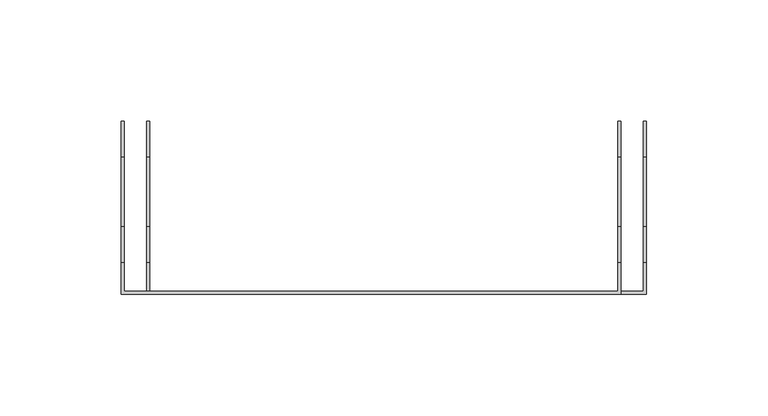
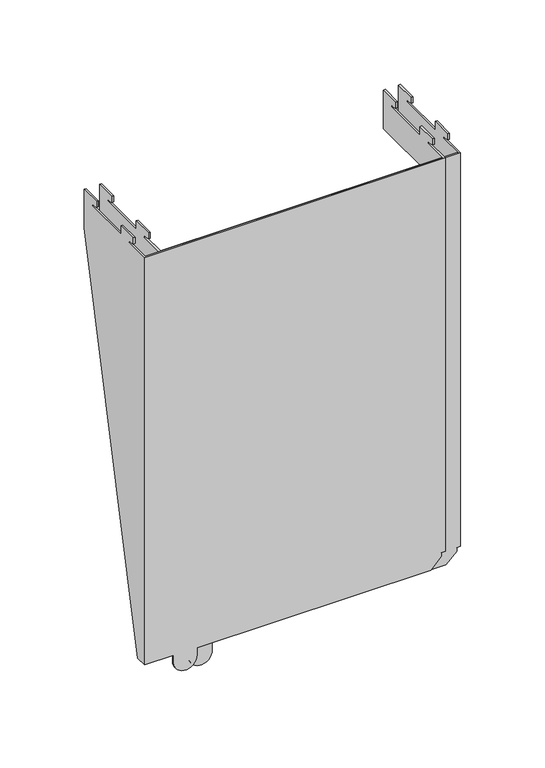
"""IFC4 building model written with IfcOpenShell, lengths in millimetres: proxy geometry, 046289_Konsole_fuer_Powerteil."""

from ifc_helpers import new_model, si_unit, frame, origin, place, context, project, spatial, circle_curve, source, transform, mapped, element, save
from ifc_brep_helpers import plane_surface, cylinder_surface, advanced_brep


def generic_models_8c06a8be(model_context):
    return source(origin(), model_context, "Body", "AdvancedBrep", [
        advanced_brep(
        [(426.625, 1040.4163526, -35.0), (426.625, 1095.5, -35.0), (426.625, 1095.5, -7.15), (426.625, 1081.0, -7.15), (426.625, 1081.0, -11.65), (426.625, 1083.5, -12.15), (426.625, 1086.0, -12.15), (426.625, 1086.0, -13.5), (426.625, 1051.99, -13.5), (426.625, 1051.99, -7.15), (426.625, 1037.49, -7.15), (426.625, 1037.49, -11.65), (426.625, 1039.99, -12.15), (426.625, 1042.49, -12.15), (426.625, 1042.49, -13.5), (426.625, 1024.25, -13.5), (426.625, 1024.25, -298.0), (426.625, 1032.5, -298.0), (426.625, 1032.5, -56.75), (425.375, 1095.5, -35.0), (425.375, 1040.4163526, -35.0), (425.375, 1032.5, -56.75), (425.375, 1032.5, -298.0), (425.375, 1025.5, -298.0), (425.375, 1025.5, -13.5), (425.375, 1042.49, -13.5), (425.375, 1042.49, -12.15), (425.375, 1039.99, -12.15), (425.375, 1037.49, -11.65), (425.375, 1037.49, -7.15), (425.375, 1051.99, -7.15), (425.375, 1051.99, -13.5), (425.375, 1086.0, -13.5), (425.375, 1086.0, -12.15), (425.375, 1083.5, -12.15), (425.375, 1081.0, -11.65), (425.375, 1081.0, -7.15), (425.375, 1095.5, -7.15), (240.625, 1025.5, -308.0), (221.875, 1025.5, -308.0), (221.875, 1025.5, -13.5), (423.595, 1025.5, -298.0), (423.595, 1025.5, -298.5), (424.095, 1025.5, -298.5), (424.095, 1025.5, -300.53), (416.625, 1025.5, -308.0), (256.625, 1025.5, -308.0), (256.625, 1025.5, -313.5), (240.625, 1025.5, -313.5), (416.625, 1024.25, -308.0), (424.095, 1024.25, -300.53), (424.095, 1024.25, -298.5), (423.595, 1024.25, -298.5), (423.595, 1024.25, -298.0), (220.625, 1024.25, -13.5), (220.625, 1024.25, -308.0), (240.625, 1024.25, -308.0), (240.625, 1024.25, -313.5), (256.625, 1024.25, -313.5), (256.625, 1024.25, -308.0), (221.875, 1042.49, -13.5), (220.625, 1042.49, -13.5), (220.625, 1032.5, -308.0), (221.875, 1032.5, -308.0), (221.875, 1095.5, -35.0), (221.875, 1095.5, -7.15), (221.875, 1081.0, -7.15), (221.875, 1081.0, -11.65), (221.875, 1083.5, -12.15), (221.875, 1086.0, -12.15), (221.875, 1086.0, -13.5), (221.875, 1051.99, -13.5), (221.875, 1051.99, -7.15), (221.875, 1037.49, -7.15), (221.875, 1037.49, -11.65), (221.875, 1039.99, -12.15), (221.875, 1042.49, -12.15), (220.625, 1095.5, -35.0), (220.625, 1037.49, -7.15), (220.625, 1037.49, -11.65), (220.625, 1042.49, -12.15), (220.625, 1039.99, -12.15), (220.625, 1051.99, -7.15), (220.625, 1051.99, -13.5), (220.625, 1086.0, -13.5), (220.625, 1086.0, -12.15), (220.625, 1083.5, -12.15), (220.625, 1081.0, -11.65), (220.625, 1081.0, -7.15), (220.625, 1095.5, -7.15)],
        [
            (0, 1),
            (1, 2),
            (2, 3),
            (3, 4),
            (4, 5),
            (5, 6),
            (6, 7),
            (7, 8),
            (8, 9),
            (9, 10),
            (10, 11),
            (11, 12),
            (12, 13),
            (13, 14),
            (14, 15),
            (15, 16),
            (16, 17),
            (17, 18),
            (18, 0),
            (19, 20),
            (20, 21),
            (21, 22),
            (22, 23),
            (23, 24),
            (24, 25),
            (25, 26),
            (26, 27),
            (27, 28),
            (28, 29),
            (29, 30),
            (30, 31),
            (31, 32),
            (32, 33),
            (33, 34),
            (34, 35),
            (35, 36),
            (36, 37),
            (37, 19),
            (38, 39),
            (39, 40),
            (40, 24),
            (23, 41),
            (41, 42),
            (42, 43),
            (43, 44),
            (44, 45),
            (45, 46),
            (46, 47),
            (47, 48, circle_curve(frame((248.625, 1025.5, -313.5), z_axis=(0.0, 1.0, 0.0), x_axis=(-1.0, 0.0, 0.0)), 8.0)),
            (48, 38),
            (49, 50),
            (50, 51),
            (51, 52),
            (52, 53),
            (53, 16),
            (15, 54),
            (54, 55),
            (55, 56),
            (56, 57),
            (57, 58, circle_curve(frame((248.625, 1024.25, -313.5), z_axis=(0.0, -1.0, 0.0), x_axis=(-1.0, 0.0, 0.0)), 8.0)),
            (58, 59),
            (59, 49),
            (0, 20),
            (19, 1),
            (18, 21),
            (17, 22),
            (40, 60),
            (60, 61),
            (61, 54),
            (14, 25),
            (55, 62),
            (62, 63),
            (63, 39),
            (38, 56),
            (63, 64),
            (64, 65),
            (65, 66),
            (66, 67),
            (67, 68),
            (68, 69),
            (69, 70),
            (70, 71),
            (71, 72),
            (72, 73),
            (73, 74),
            (74, 75),
            (75, 76),
            (76, 60),
            (53, 41),
            (49, 45),
            (44, 50),
            (62, 77),
            (77, 64),
            (73, 78),
            (78, 79),
            (79, 74),
            (61, 80),
            (80, 81),
            (81, 79),
            (78, 82),
            (82, 83),
            (83, 84),
            (84, 85),
            (85, 86),
            (86, 87),
            (87, 88),
            (88, 89),
            (89, 77),
            (82, 72),
            (71, 83),
            (37, 2),
            (11, 28),
            (27, 12),
            (10, 29),
            (4, 35),
            (34, 5),
            (3, 36),
            (81, 75),
            (66, 88),
            (87, 67),
            (86, 68),
            (30, 9),
            (8, 31),
            (89, 65),
            (70, 84),
            (7, 32),
            (59, 46),
            (48, 57),
            (43, 51),
            (58, 47),
            (80, 76),
            (26, 13),
            (52, 42),
            (33, 6),
            (85, 69),
        ],
        [
            plane_surface(frame((426.625, 1073.8599851, -31.0643711), z_axis=(1.0, 0.0, 0.0), x_axis=(0.0, 0.0, -1.0))),
            plane_surface(frame((425.375, 1073.8599851, -31.0643711), z_axis=(-1.0, 0.0, 0.0), x_axis=(0.0, 0.0, -1.0))),
            plane_surface(frame((300.9387567, 1025.5, -192.7381268), z_axis=(0.0, 1.0, 0.0), x_axis=(-1.0, 0.0, 0.0))),
            plane_surface(frame((300.9387567, 1024.25, -192.7381268), z_axis=(0.0, -1.0, 0.0), x_axis=(-1.0, 0.0, 0.0))),
            plane_surface(frame((426.625, 1059.6399553, -35.0), z_axis=(0.0, 0.0, -1.0), x_axis=(0.0, 1.0, 0.0))),
            plane_surface(frame((426.625, 1040.4163526, -35.0), z_axis=(0.0, 0.9396926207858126, -0.34202014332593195), x_axis=(0.0, 0.34202014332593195, 0.9396926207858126))),
            plane_surface(frame((426.625, 1032.5, -56.75), z_axis=(0.0, 1.0, 0.0), x_axis=(0.0, 0.0, 1.0))),
            plane_surface(frame((298.7620309, 1087.8842988, -13.5), z_axis=(0.0, 0.0, 1.0), x_axis=(-1.0, 0.0, 0.0))),
            plane_surface(frame((427.055, 1452.155, -308.0), z_axis=(0.0, 0.0, -1.0), x_axis=(0.0, -1.0, 0.0))),
            plane_surface(frame((221.875, 1082.463073, -252.759819), z_axis=(1.0, 0.0, 0.0), x_axis=(0.0, 0.0, -1.0))),
            plane_surface(frame((423.595, 1102.6250024, -298.0), z_axis=(0.0, 0.0, -1.0), x_axis=(1.0, 0.0, 0.0))),
            plane_surface(frame((425.0487815, 1017.1249976, -299.5762185), z_axis=(0.7071067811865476, 0.0, -0.7071067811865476), x_axis=(-0.7071067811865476, 0.0, -0.7071067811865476))),
            plane_surface(frame((200.0249976, 1032.5, -308.0), z_axis=(0.0, 0.9743911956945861, -0.2248595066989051), x_axis=(0.0, 0.2248595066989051, 0.9743911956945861))),
            plane_surface(frame((447.2250024, 1037.49, -11.65), z_axis=(0.0, -1.0, 0.0), x_axis=(0.0, 0.0, 1.0))),
            plane_surface(frame((220.625, 1082.463073, -252.759819), z_axis=(-1.0, 0.0, 0.0), x_axis=(0.0, 0.0, -1.0))),
            plane_surface(frame((221.875, 1051.99, -17.1346883), z_axis=(0.0, 1.0, 0.0), x_axis=(0.0, 0.0, -1.0))),
            plane_surface(frame((426.625, 1095.5, -15.0), z_axis=(0.0, 1.0, 0.0), x_axis=(-1.0, 0.0, 0.0))),
            plane_surface(frame((447.2250024, 1039.99, -12.15), z_axis=(0.0, -0.19611613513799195, -0.9805806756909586), x_axis=(0.0, -0.9805806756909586, 0.19611613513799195))),
            plane_surface(frame((447.2250024, 1083.5, -12.15), z_axis=(0.0, -0.19611613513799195, -0.9805806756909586), x_axis=(0.0, -0.9805806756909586, 0.19611613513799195))),
            plane_surface(frame((447.2250024, 1081.0, -11.65), z_axis=(0.0, -1.0, 0.0), x_axis=(0.0, 0.0, 1.0))),
            plane_surface(frame((426.625, 1051.99, -17.1346883), z_axis=(0.0, 1.0, 0.0), x_axis=(0.0, 0.0, -1.0))),
            plane_surface(frame((221.875, 1095.5, -17.3404306), z_axis=(0.0, 1.0, 0.0), x_axis=(0.0, 0.0, -1.0))),
            plane_surface(frame((240.625, 1025.5, -313.5), z_axis=(-1.0, 0.0, 0.0), x_axis=(0.0, 0.0, -1.0))),
            plane_surface(frame((424.095, 1017.1249976, -298.2897359), z_axis=(1.0, 0.0, 0.0), x_axis=(0.0, 0.0, -1.0))),
            plane_surface(frame((256.625, 1025.5, -307.2863268), z_axis=(1.0, 0.0, 0.0), x_axis=(0.0, 0.0, 1.0))),
            plane_surface(frame((221.875, 1049.25, -7.15), z_axis=(0.0, 0.0, 1.0), x_axis=(0.0, 1.0, 0.0))),
            plane_surface(frame((221.875, 1037.49, -12.15), z_axis=(0.0, 0.0, -1.0), x_axis=(0.0, -1.0, 0.0))),
            plane_surface(frame((426.625, 1047.49, -7.15), z_axis=(0.0, 0.0, 1.0), x_axis=(0.0, 1.0, 0.0))),
            plane_surface(frame((221.875, 1095.5, -7.15), z_axis=(0.0, 0.0, 1.0), x_axis=(0.0, 1.0, 0.0))),
            plane_surface(frame((426.625, 1037.49, -12.15), z_axis=(0.0, 0.0, -1.0), x_axis=(0.0, -1.0, 0.0))),
            plane_surface(frame((426.625, 1042.49, -12.15), z_axis=(0.0, -1.0, 0.0), x_axis=(0.0, 0.0, 1.0))),
            plane_surface(frame((426.625, 1091.0, -7.15), z_axis=(0.0, 0.0, 1.0), x_axis=(0.0, 1.0, 0.0))),
            plane_surface(frame((423.595, 1102.6250024, -298.5), z_axis=(1.0, 0.0, 0.0), x_axis=(0.0, 0.0, 1.0))),
            plane_surface(frame((437.845139, 1102.6250024, -298.5), z_axis=(0.0, 0.0, 1.0), x_axis=(-1.0, 0.0, 0.0))),
            plane_surface(frame((426.625, 1081.0, -12.15), z_axis=(0.0, 0.0, -1.0), x_axis=(0.0, -1.0, 0.0))),
            plane_surface(frame((426.625, 1086.0, -12.15), z_axis=(0.0, -1.0, 0.0), x_axis=(0.0, 0.0, 1.0))),
            plane_surface(frame((221.875, 1081.0, -12.15), z_axis=(0.0, 0.0, -1.0), x_axis=(0.0, -1.0, 0.0))),
            cylinder_surface(frame((248.625, 1025.5, -313.5), z_axis=(0.0, 1.0, 0.0), x_axis=(-1.0, 0.0, 0.0)), 8.0),
            plane_surface(frame((221.875, 1042.49, -12.15), z_axis=(0.0, -1.0, 0.0), x_axis=(0.0, 0.0, 1.0))),
            plane_surface(frame((221.875, 1086.0, -12.15), z_axis=(0.0, -1.0, 0.0), x_axis=(0.0, 0.0, 1.0))),
        ],
        [
            (0, [[1, 2, 3, 4, 5, 6, 7, 8, 9, 10, 11, 12, 13, 14, 15, 16, 17, 18, 19]]),
            (1, [[20, 21, 22, 23, 24, 25, 26, 27, 28, 29, 30, 31, 32, 33, 34, 35, 36, 37, 38]]),
            (2, [[39, 40, 41, -24, 42, 43, 44, 45, 46, 47, 48, 49, 50]]),
            (3, [[51, 52, 53, 54, 55, -16, 56, 57, 58, 59, 60, 61, 62]]),
            (4, [[-1, 63, -20, 64]]),
            (5, [[-19, 65, -21, -63]]),
            (6, [[-22, -65, -18, 66]]),
            (7, [[67, 68, 69, -56, -15, 70, -25, -41]]),
            (8, [[71, 72, 73, -39, 74, -58]]),
            (9, [[-73, 75, 76, 77, 78, 79, 80, 81, 82, 83, 84, 85, 86, 87, 88, -67, -40]]),
            (10, [[-23, -66, -17, -55, 89, -42]]),
            (11, [[-51, 90, -46, 91]]),
            (12, [[-75, -72, 92, 93]]),
            (13, [[-85, 94, 95, 96]]),
            (14, [[-92, -71, -57, -69, 97, 98, 99, -95, 100, 101, 102, 103, 104, 105, 106, 107, 108]]),
            (15, [[-101, 109, -83, 110]]),
            (16, [[-2, -64, -38, 111]]),
            (17, [[-12, 112, -28, 113]]),
            (13, [[-11, 114, -29, -112]]),
            (18, [[-5, 115, -35, 116]]),
            (19, [[-4, 117, -36, -115]]),
            (17, [[-86, -96, -99, 118]]),
            (19, [[-78, 119, -106, 120]]),
            (18, [[-79, -120, -105, 121]]),
            (20, [[-31, 122, -9, 123]]),
            (21, [[-108, 124, -76, -93]]),
            (7, [[-110, -82, 125, -102]]),
            (7, [[-123, -8, 126, -32]]),
            (8, [[-62, 127, -47, -90]]),
            (22, [[-50, 128, -59, -74]]),
            (23, [[-52, -91, -45, 129]]),
            (24, [[-127, -61, 130, -48]]),
            (25, [[-84, -109, -100, -94]]),
            (26, [[-87, -118, -98, 131]]),
            (27, [[-10, -122, -30, -114]]),
            (28, [[-77, -124, -107, -119]]),
            (29, [[-13, -113, -27, 132]]),
            (30, [[-70, -14, -132, -26]]),
            (31, [[-3, -111, -37, -117]]),
            (32, [[-54, 133, -43, -89]]),
            (33, [[-129, -44, -133, -53]]),
            (34, [[-6, -116, -34, 134]]),
            (35, [[-126, -7, -134, -33]]),
            (36, [[-80, -121, -104, 135]]),
            (37, [[-49, -130, -60, -128]]),
            (38, [[-68, -88, -131, -97]]),
            (39, [[-125, -81, -135, -103]]),
        ],
    ),
        advanced_brep(
        [(232.325, 1032.5, -308.0), (232.325, 1095.5, -35.0), (232.325, 1095.5, -7.15), (232.325, 1081.0, -7.15), (232.325, 1081.0, -11.65), (232.325, 1083.5, -12.15), (232.325, 1086.0, -12.15), (232.325, 1086.0, -13.5), (232.325, 1051.99, -13.5), (232.325, 1051.99, -7.15), (232.325, 1037.49, -7.15), (232.325, 1037.49, -11.65), (232.325, 1039.99, -12.15), (232.325, 1042.49, -12.15), (232.325, 1042.49, -13.5), (232.325, 1025.5, -13.5), (232.325, 1025.5, -308.0), (435.825, 1025.5, -13.5), (435.825, 1025.5, -298.0), (434.045, 1025.5, -298.0), (434.045, 1025.5, -298.5), (434.545, 1025.5, -298.5), (434.545, 1025.5, -300.53), (427.075, 1025.5, -308.0), (267.075, 1025.5, -308.0), (267.075, 1025.5, -313.5), (251.075, 1025.5, -313.5), (251.075, 1025.5, -308.0), (437.075, 1024.25, -13.5), (231.075, 1024.25, -13.5), (231.075, 1024.25, -308.0), (251.075, 1024.25, -308.0), (251.075, 1024.25, -313.5), (267.075, 1024.25, -313.5), (267.075, 1024.25, -308.0), (427.075, 1024.25, -308.0), (434.545, 1024.25, -300.53), (434.545, 1024.25, -298.5), (434.045, 1024.25, -298.5), (434.045, 1024.25, -298.0), (437.075, 1024.25, -298.0), (437.075, 1040.4163526, -35.0), (437.075, 1095.5, -35.0), (437.075, 1095.5, -7.15), (437.075, 1081.0, -7.15), (437.075, 1081.0, -11.65), (437.075, 1083.5, -12.15), (437.075, 1086.0, -12.15), (437.075, 1086.0, -13.5), (437.075, 1051.99, -13.5), (437.075, 1051.99, -7.15), (437.075, 1037.49, -7.15), (437.075, 1037.49, -11.65), (437.075, 1039.99, -12.15), (437.075, 1042.49, -12.15), (437.075, 1042.49, -13.5), (437.075, 1032.5, -298.0), (437.075, 1032.5, -56.75), (435.825, 1095.5, -35.0), (435.825, 1040.4163526, -35.0), (435.825, 1032.5, -56.75), (435.825, 1032.5, -298.0), (435.825, 1042.49, -13.5), (435.825, 1042.49, -12.15), (435.825, 1039.99, -12.15), (435.825, 1037.49, -11.65), (435.825, 1037.49, -7.15), (435.825, 1051.99, -7.15), (435.825, 1051.99, -13.5), (435.825, 1086.0, -13.5), (435.825, 1086.0, -12.15), (435.825, 1083.5, -12.15), (435.825, 1081.0, -11.65), (435.825, 1081.0, -7.15), (435.825, 1095.5, -7.15), (231.075, 1042.49, -13.5), (231.075, 1032.5, -308.0), (231.075, 1095.5, -35.0), (231.075, 1042.49, -12.15), (231.075, 1039.99, -12.15), (231.075, 1037.49, -11.65), (231.075, 1037.49, -7.15), (231.075, 1051.99, -7.15), (231.075, 1051.99, -13.5), (231.075, 1086.0, -13.5), (231.075, 1086.0, -12.15), (231.075, 1083.5, -12.15), (231.075, 1081.0, -11.65), (231.075, 1081.0, -7.15), (231.075, 1095.5, -7.15)],
        [
            (0, 1),
            (1, 2),
            (2, 3),
            (3, 4),
            (4, 5),
            (5, 6),
            (6, 7),
            (7, 8),
            (8, 9),
            (9, 10),
            (10, 11),
            (11, 12),
            (12, 13),
            (13, 14),
            (14, 15),
            (15, 16),
            (16, 0),
            (15, 17),
            (17, 18),
            (18, 19),
            (19, 20),
            (20, 21),
            (21, 22),
            (22, 23),
            (23, 24),
            (24, 25),
            (25, 26, circle_curve(frame((259.075, 1025.5, -313.5), z_axis=(0.0, 1.0, 0.0), x_axis=(-1.0, 0.0, 0.0)), 8.0)),
            (26, 27),
            (27, 16),
            (28, 29),
            (29, 30),
            (30, 31),
            (31, 32),
            (32, 33, circle_curve(frame((259.075, 1024.25, -313.5), z_axis=(0.0, -1.0, 0.0), x_axis=(-1.0, 0.0, 0.0)), 8.0)),
            (33, 34),
            (34, 35),
            (35, 36),
            (36, 37),
            (37, 38),
            (38, 39),
            (39, 40),
            (40, 28),
            (41, 42),
            (42, 43),
            (43, 44),
            (44, 45),
            (45, 46),
            (46, 47),
            (47, 48),
            (48, 49),
            (49, 50),
            (50, 51),
            (51, 52),
            (52, 53),
            (53, 54),
            (54, 55),
            (55, 28),
            (40, 56),
            (56, 57),
            (57, 41),
            (58, 59),
            (59, 60),
            (60, 61),
            (61, 18),
            (17, 62),
            (62, 63),
            (63, 64),
            (64, 65),
            (65, 66),
            (66, 67),
            (67, 68),
            (68, 69),
            (69, 70),
            (70, 71),
            (71, 72),
            (72, 73),
            (73, 74),
            (74, 58),
            (41, 59),
            (58, 42),
            (57, 60),
            (56, 61),
            (14, 75),
            (75, 29),
            (55, 62),
            (30, 76),
            (76, 0),
            (27, 31),
            (39, 19),
            (35, 23),
            (22, 36),
            (76, 77),
            (77, 1),
            (75, 78),
            (78, 79),
            (79, 80),
            (80, 81),
            (81, 82),
            (82, 83),
            (83, 84),
            (84, 85),
            (85, 86),
            (86, 87),
            (87, 88),
            (88, 89),
            (89, 77),
            (89, 2),
            (3, 88),
            (87, 4),
            (10, 81),
            (80, 11),
            (82, 9),
            (8, 83),
            (79, 12),
            (86, 5),
            (74, 43),
            (44, 73),
            (72, 45),
            (71, 46),
            (67, 50),
            (49, 68),
            (51, 66),
            (65, 52),
            (64, 53),
            (63, 54),
            (48, 69),
            (47, 70),
            (38, 20),
            (37, 21),
            (34, 24),
            (33, 25),
            (32, 26),
            (7, 84),
            (78, 13),
            (6, 85),
        ],
        [
            plane_surface(frame((232.325, 1082.463073, -252.759819), z_axis=(1.0, 0.0, 0.0), x_axis=(0.0, 0.0, -1.0))),
            plane_surface(frame((311.3887567, 1025.5, -192.7381268), z_axis=(0.0, 1.0, 0.0), x_axis=(-1.0, 0.0, 0.0))),
            plane_surface(frame((311.3887567, 1024.25, -192.7381268), z_axis=(0.0, -1.0, 0.0), x_axis=(-1.0, 0.0, 0.0))),
            plane_surface(frame((437.075, 1073.8599851, -31.0643711), z_axis=(1.0, 0.0, 0.0), x_axis=(0.0, 0.0, -1.0))),
            plane_surface(frame((435.825, 1073.8599851, -31.0643711), z_axis=(-1.0, 0.0, 0.0), x_axis=(0.0, 0.0, -1.0))),
            plane_surface(frame((437.075, 1059.6399553, -35.0), z_axis=(0.0, 0.0, -1.0), x_axis=(0.0, 1.0, 0.0))),
            plane_surface(frame((437.075, 1040.4163526, -35.0), z_axis=(0.0, 0.9396926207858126, -0.34202014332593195), x_axis=(0.0, 0.34202014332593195, 0.9396926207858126))),
            plane_surface(frame((437.075, 1032.5, -56.75), z_axis=(0.0, 1.0, 0.0), x_axis=(0.0, 0.0, 1.0))),
            plane_surface(frame((309.2120309, 1087.8842988, -13.5), z_axis=(0.0, 0.0, 1.0), x_axis=(-1.0, 0.0, 0.0))),
            plane_surface(frame((437.505, 1452.155, -308.0), z_axis=(0.0, 0.0, -1.0), x_axis=(0.0, -1.0, 0.0))),
            plane_surface(frame((434.045, 1102.6250024, -298.0), z_axis=(0.0, 0.0, -1.0), x_axis=(1.0, 0.0, 0.0))),
            plane_surface(frame((435.4987815, 1017.1249976, -299.5762185), z_axis=(0.7071067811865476, 0.0, -0.7071067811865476), x_axis=(-0.7071067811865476, 0.0, -0.7071067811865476))),
            plane_surface(frame((210.4749976, 1032.5, -308.0), z_axis=(0.0, 0.9743911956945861, -0.2248595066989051), x_axis=(0.0, 0.2248595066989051, 0.9743911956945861))),
            plane_surface(frame((231.075, 1082.463073, -252.759819), z_axis=(-1.0, 0.0, 0.0), x_axis=(0.0, 0.0, -1.0))),
            plane_surface(frame((232.325, 1095.5, -17.3404306), z_axis=(0.0, 1.0, 0.0), x_axis=(0.0, 0.0, -1.0))),
            plane_surface(frame((457.6750024, 1081.0, -11.65), z_axis=(0.0, -1.0, 0.0), x_axis=(0.0, 0.0, 1.0))),
            plane_surface(frame((457.6750024, 1037.49, -11.65), z_axis=(0.0, -1.0, 0.0), x_axis=(0.0, 0.0, 1.0))),
            plane_surface(frame((232.325, 1051.99, -17.1346883), z_axis=(0.0, 1.0, 0.0), x_axis=(0.0, 0.0, -1.0))),
            plane_surface(frame((457.6750024, 1039.99, -12.15), z_axis=(0.0, -0.19611613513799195, -0.9805806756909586), x_axis=(0.0, -0.9805806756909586, 0.19611613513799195))),
            plane_surface(frame((457.6750024, 1083.5, -12.15), z_axis=(0.0, -0.19611613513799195, -0.9805806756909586), x_axis=(0.0, -0.9805806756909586, 0.19611613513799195))),
            plane_surface(frame((437.075, 1095.5, -15.0), z_axis=(0.0, 1.0, 0.0), x_axis=(-1.0, 0.0, 0.0))),
            plane_surface(frame((437.075, 1051.99, -17.1346883), z_axis=(0.0, 1.0, 0.0), x_axis=(0.0, 0.0, -1.0))),
            plane_surface(frame((437.075, 1037.49, -12.15), z_axis=(0.0, 0.0, -1.0), x_axis=(0.0, -1.0, 0.0))),
            plane_surface(frame((437.075, 1047.49, -7.15), z_axis=(0.0, 0.0, 1.0), x_axis=(0.0, 1.0, 0.0))),
            plane_surface(frame((437.075, 1086.0, -12.15), z_axis=(0.0, -1.0, 0.0), x_axis=(0.0, 0.0, 1.0))),
            plane_surface(frame((437.075, 1081.0, -12.15), z_axis=(0.0, 0.0, -1.0), x_axis=(0.0, -1.0, 0.0))),
            plane_surface(frame((437.075, 1091.0, -7.15), z_axis=(0.0, 0.0, 1.0), x_axis=(0.0, 1.0, 0.0))),
            plane_surface(frame((434.045, 1102.6250024, -298.5), z_axis=(1.0, 0.0, 0.0), x_axis=(0.0, 0.0, 1.0))),
            plane_surface(frame((448.295139, 1102.6250024, -298.5), z_axis=(0.0, 0.0, 1.0), x_axis=(-1.0, 0.0, 0.0))),
            plane_surface(frame((434.545, 1017.1249976, -298.2897359), z_axis=(1.0, 0.0, 0.0), x_axis=(0.0, 0.0, -1.0))),
            plane_surface(frame((267.075, 1025.5, -307.2863268), z_axis=(1.0, 0.0, 0.0), x_axis=(0.0, 0.0, 1.0))),
            cylinder_surface(frame((259.075, 1025.5, -313.5), z_axis=(0.0, 1.0, 0.0), x_axis=(-1.0, 0.0, 0.0)), 8.0),
            plane_surface(frame((437.075, 1042.49, -12.15), z_axis=(0.0, -1.0, 0.0), x_axis=(0.0, 0.0, 1.0))),
            plane_surface(frame((251.075, 1025.5, -313.5), z_axis=(-1.0, 0.0, 0.0), x_axis=(0.0, 0.0, -1.0))),
            plane_surface(frame((232.325, 1049.25, -7.15), z_axis=(0.0, 0.0, 1.0), x_axis=(0.0, 1.0, 0.0))),
            plane_surface(frame((232.325, 1037.49, -12.15), z_axis=(0.0, 0.0, -1.0), x_axis=(0.0, -1.0, 0.0))),
            plane_surface(frame((232.325, 1086.0, -12.15), z_axis=(0.0, -1.0, 0.0), x_axis=(0.0, 0.0, 1.0))),
            plane_surface(frame((232.325, 1042.49, -12.15), z_axis=(0.0, -1.0, 0.0), x_axis=(0.0, 0.0, 1.0))),
            plane_surface(frame((232.325, 1081.0, -12.15), z_axis=(0.0, 0.0, -1.0), x_axis=(0.0, -1.0, 0.0))),
            plane_surface(frame((232.325, 1095.5, -7.15), z_axis=(0.0, 0.0, 1.0), x_axis=(0.0, 1.0, 0.0))),
        ],
        [
            (0, [[1, 2, 3, 4, 5, 6, 7, 8, 9, 10, 11, 12, 13, 14, 15, 16, 17]]),
            (1, [[18, 19, 20, 21, 22, 23, 24, 25, 26, 27, 28, 29, -16]]),
            (2, [[30, 31, 32, 33, 34, 35, 36, 37, 38, 39, 40, 41, 42]]),
            (3, [[43, 44, 45, 46, 47, 48, 49, 50, 51, 52, 53, 54, 55, 56, 57, -42, 58, 59, 60]]),
            (4, [[61, 62, 63, 64, -19, 65, 66, 67, 68, 69, 70, 71, 72, 73, 74, 75, 76, 77, 78]]),
            (5, [[-43, 79, -61, 80]]),
            (6, [[-60, 81, -62, -79]]),
            (7, [[-63, -81, -59, 82]]),
            (8, [[-15, 83, 84, -30, -57, 85, -65, -18]]),
            (9, [[86, 87, -17, -29, 88, -32]]),
            (10, [[-64, -82, -58, -41, 89, -20]]),
            (11, [[-37, 90, -24, 91]]),
            (12, [[-1, -87, 92, 93]]),
            (13, [[-92, -86, -31, -84, 94, 95, 96, 97, 98, 99, 100, 101, 102, 103, 104, 105, 106]]),
            (14, [[-106, 107, -2, -93]]),
            (15, [[-4, 108, -104, 109]]),
            (16, [[-11, 110, -97, 111]]),
            (17, [[-99, 112, -9, 113]]),
            (18, [[-12, -111, -96, 114]]),
            (19, [[-5, -109, -103, 115]]),
            (20, [[-44, -80, -78, 116]]),
            (15, [[-46, 117, -76, 118]]),
            (19, [[-47, -118, -75, 119]]),
            (21, [[-71, 120, -51, 121]]),
            (16, [[-53, 122, -69, 123]]),
            (18, [[-54, -123, -68, 124]]),
            (22, [[-55, -124, -67, 125]]),
            (23, [[-70, -122, -52, -120]]),
            (8, [[-121, -50, 126, -72]]),
            (24, [[-126, -49, 127, -73]]),
            (25, [[-48, -119, -74, -127]]),
            (26, [[-77, -117, -45, -116]]),
            (27, [[-40, 128, -21, -89]]),
            (28, [[129, -22, -128, -39]]),
            (29, [[-38, -91, -23, -129]]),
            (9, [[-36, 130, -25, -90]]),
            (30, [[-130, -35, 131, -26]]),
            (31, [[-27, -131, -34, 132]]),
            (32, [[-85, -56, -125, -66]]),
            (33, [[-28, -132, -33, -88]]),
            (34, [[-10, -112, -98, -110]]),
            (8, [[-113, -8, 133, -100]]),
            (35, [[-13, -114, -95, 134]]),
            (36, [[-133, -7, 135, -101]]),
            (37, [[-83, -14, -134, -94]]),
            (38, [[-6, -115, -102, -135]]),
            (39, [[-105, -108, -3, -107]]),
        ],
    ),
    ])


if __name__ == "__main__":
    model = new_model("IFC4")
    model_context = context("Model", 3, world=origin())
    ifc_project = project(units=[si_unit("LENGTHUNIT", "METRE", prefix="MILLI")], contexts=[model_context])
    site = spatial("IfcSite", under=ifc_project)
    building = spatial("IfcBuilding", under=site)
    placement = place(None, origin())
    generic_models_shape = generic_models_8c06a8be(model_context)
    element("IfcBuildingElementProxy", 1, Name="046289_Konsole_fuer_Powerteil", ObjectType="046289_Konsole_fuer_Powerteil", at=placement, inside=building, context=model_context, shape_type="MappedRepresentation", body=[
        mapped(generic_models_shape, transform((0.0, 0.0, 0.0), x_axis=(1.0, 0.0, 0.0), y_axis=(0.0, 1.0, 0.0), z_axis=(0.0, 0.0, 1.0))),
    ])
    save(model, "model.ifc")
